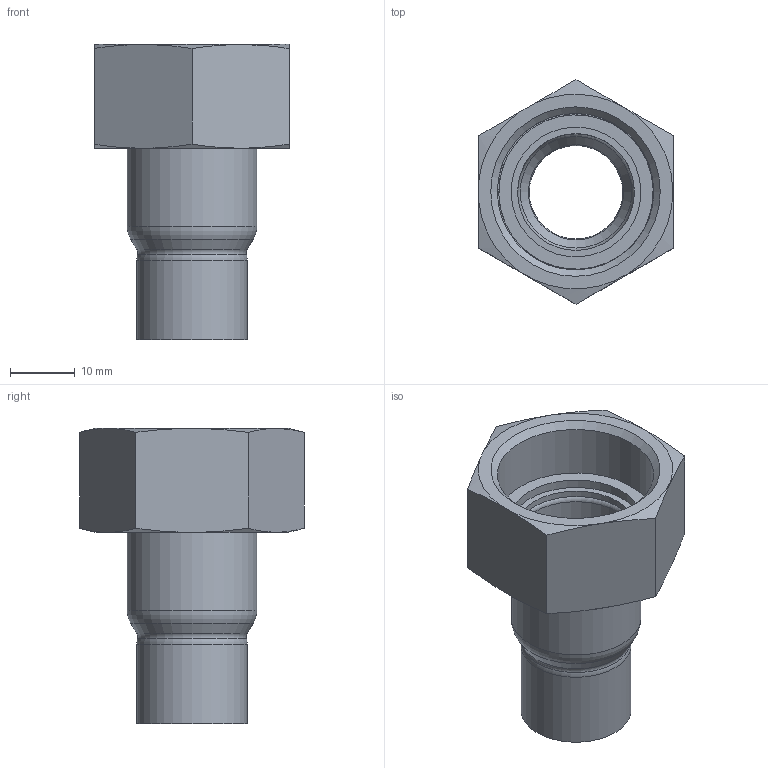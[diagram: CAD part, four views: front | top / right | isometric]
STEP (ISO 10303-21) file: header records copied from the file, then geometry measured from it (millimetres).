
FILE_DESCRIPTION(/* description */ (''),/* implementation_level */ '2;1');
FILE_NAME(/* name */ 'G:\Technik\Management\Bouwmaten + markeringen\z-maattekeningen 3D\5000_gem\5359G_gem\153591534_gem.stp',/* time_stamp */ '2022-03-07T14:59:09+01:00',/* author */ ('vdvijverd'),/* organization */ (''),/* preprocessor_version */ 'ST-DEVELOPER v18.1',/* originating_system */ 'Autodesk Inventor 2021',/* authorisation */ '');
FILE_SCHEMA (('AUTOMOTIVE_DESIGN { 1 0 10303 214 3 1 1 }'));
Length unit declared in the file: millimetre
Products named in the file (4): KS53591534; 5359G1534; centel_34; BB1A006_34
Assembly tree (3 placements, depth 2):
  KS53591534
    5359G1534
    centel_34
    BB1A006_34
Bounding box: 30 x 34.64 x 45.49 mm (x, y, z)
Volume: 7844 mm3; surface area: 8399 mm2
Topology: 3 solids, 3 shells, 44 faces, 117 edges, 82 vertices
Faces by surface type: plane 15, cone 11, torus 9, cylinder 9
Full cylindrical faces by diameter (mm): 15 x1, 17 x1, 18 x2, 20 x2, 20.8 x1, 23.8 x1, 24.117 x1
Entity records: 1585 total; most frequent: CARTESIAN_POINT 286, DIRECTION 274, ORIENTED_EDGE 234, AXIS2_PLACEMENT_3D 124, EDGE_CURVE 117, VERTEX_POINT 82, CIRCLE 73, EDGE_LOOP 53
